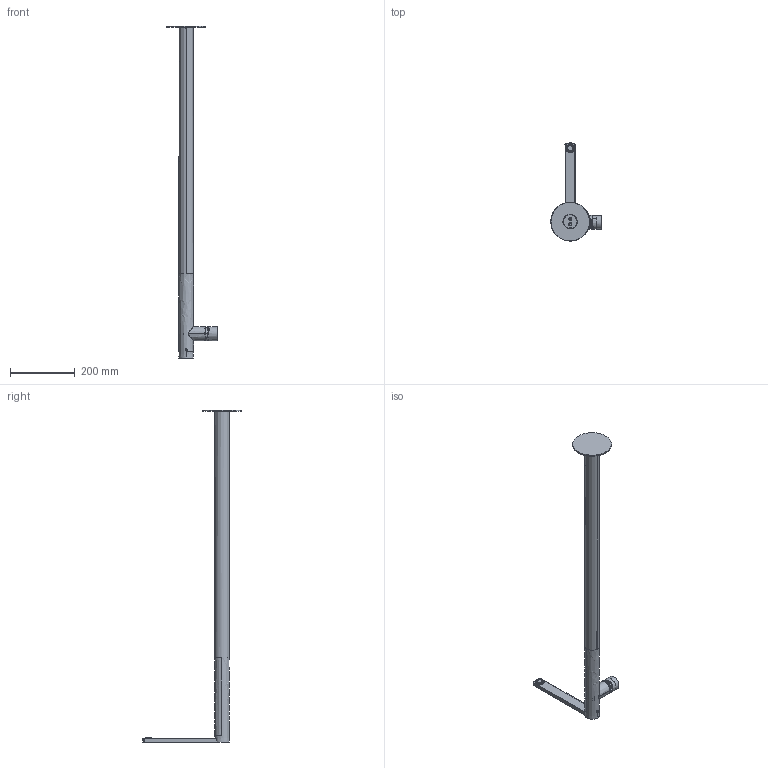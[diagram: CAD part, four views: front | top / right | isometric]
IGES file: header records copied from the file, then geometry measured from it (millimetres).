
Start section:  PTC IGES file: 8959521_sw0001.igs
Global section: file name: 8959521_sw0001.igs; native system: Creo Parametric by PTC Inc.; preprocessor: 2018100; author: carloff; organization: Unknown; date: 20200618.095641; units: millimetre
Bounding box: 155.6 x 304.85 x 1025 mm (x, y, z)
Surface area: 363128 mm2 (no closed solid volume)
Topology: 0 solids, 0 shells, 3256 faces, 17050 edges, 17042 vertices
Faces by surface type: bspline 2563, revolution 693
